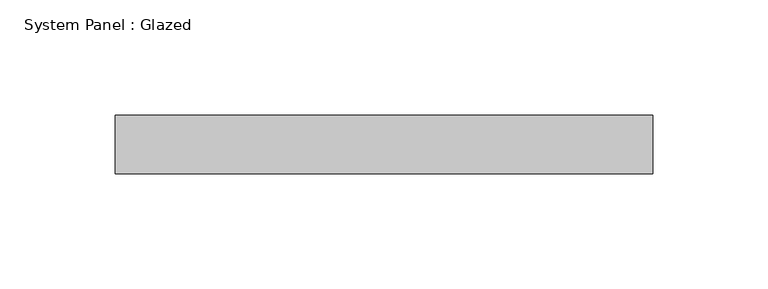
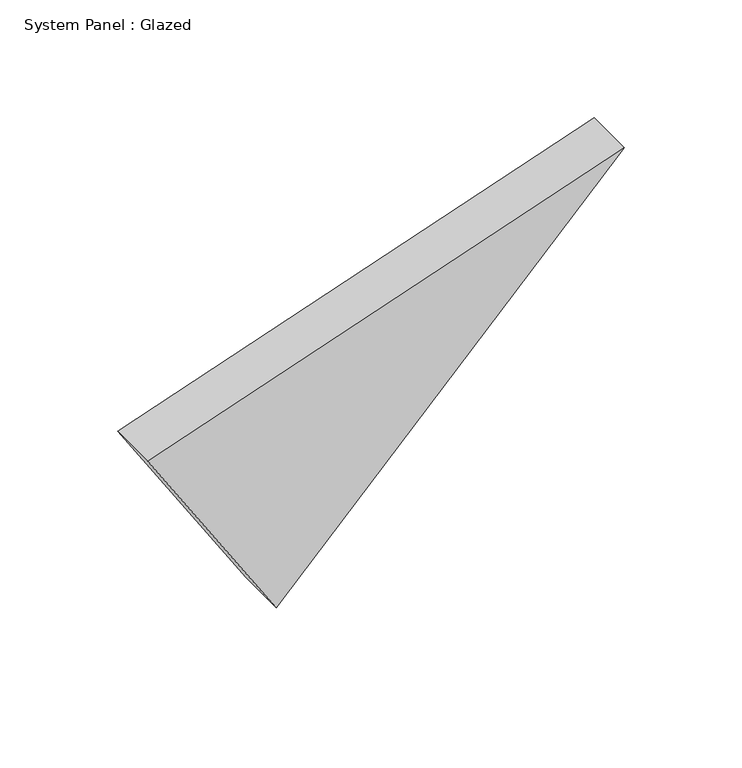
"""IFC4 building model written with IfcOpenShell, lengths in millimetres: plate geometry, System Panel : Glazed."""

from ifc_helpers import new_model, si_unit, frame, origin, place, context, project, spatial, polyline, outline, extrude, source, transform, mapped, element, save


def system_panel_glazed_1ef52394(model_context):
    return source(origin(), model_context, "Body", "SweptSolid", [
        extrude(outline(polyline([(97.9544753, -116.7635939), (0.0, -53.844994), (178.7704762, 116.7635939), (97.9544753, -116.7635939)])), frame((0.0, 19.05, 0.0), z_axis=(0.0, 1.0, 0.0), x_axis=(0.0, 0.0, 1.0)), (0.0, 0.0, 1.0), 25.4),
    ])


if __name__ == "__main__":
    model = new_model("IFC4")
    model_context = context("Model", 3, world=origin())
    ifc_project = project(units=[si_unit("LENGTHUNIT", "METRE", prefix="MILLI")], contexts=[model_context])
    site = spatial("IfcSite", under=ifc_project)
    building = spatial("IfcBuilding", under=site)
    placement = place(None, origin())
    system_panel_glazed_shape = system_panel_glazed_1ef52394(model_context)
    element("IfcPlate", 1, ObjectType="System Panel : Glazed", at=placement, inside=building, context=model_context, shape_type="MappedRepresentation", body=[
        mapped(system_panel_glazed_shape, transform((0.0, 0.0, 0.0), x_axis=(1.0, 0.0, 0.0), y_axis=(0.0, 1.0, 0.0), z_axis=(0.0, 0.0, 1.0))),
    ])
    save(model, "model.ifc")
